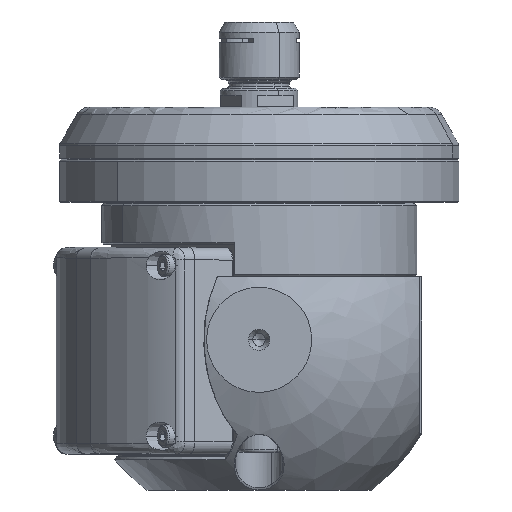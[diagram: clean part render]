
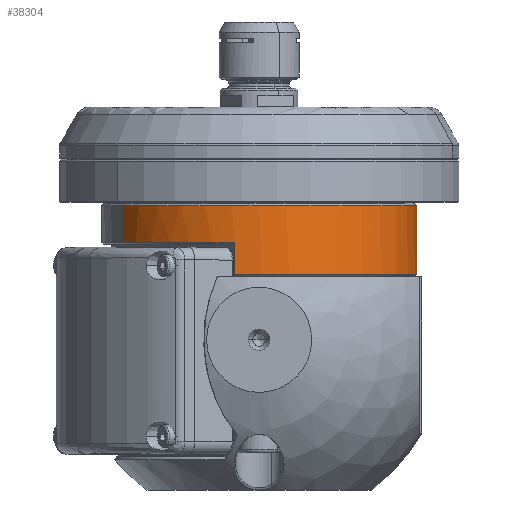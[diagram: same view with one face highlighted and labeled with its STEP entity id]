
A CAD part, front view. The second image highlights one B-rep face of the part: STEP entity #38304.
In plain terms, the highlighted cylindrical face has radius 31.5 mm (diameter 63 mm), a partial arc.
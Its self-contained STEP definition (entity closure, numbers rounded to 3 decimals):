
#252 = EDGE_CURVE ( 'NONE', #9271, #3193, #14596, .T. ) ;
#821 = ORIENTED_EDGE ( 'NONE', *, *, #252, .T. ) ;
#985 = AXIS2_PLACEMENT_3D ( 'NONE', #13474, #10291, #6226 ) ;
#1735 = DIRECTION ( 'NONE',  ( 0., 0., 1. ) ) ;
#2817 = FACE_OUTER_BOUND ( 'NONE', #33086, .T. ) ;
#3017 = CARTESIAN_POINT ( 'NONE',  ( -4.898, 6.383, 13.1 ) ) ;
#3193 = VERTEX_POINT ( 'NONE', #20074 ) ;
#6226 = DIRECTION ( 'NONE',  ( -0.866, -0.5, 0. ) ) ;
#6550 = VERTEX_POINT ( 'NONE', #36991 ) ;
#7236 = CARTESIAN_POINT ( 'NONE',  ( 0., 37.5, 19.4 ) ) ;
#8687 = LINE ( 'NONE', #27067, #11264 ) ;
#9271 = VERTEX_POINT ( 'NONE', #3017 ) ;
#9303 = EDGE_CURVE ( 'NONE', #3193, #40700, #21618, .T. ) ;
#9583 = EDGE_CURVE ( 'NONE', #40700, #12797, #32904, .T. ) ;
#9779 = EDGE_CURVE ( 'NONE', #25232, #9271, #8687, .T. ) ;
#10291 = DIRECTION ( 'NONE',  ( 0., 0., 1. ) ) ;
#10664 = ORIENTED_EDGE ( 'NONE', *, *, #9779, .T. ) ;
#10865 = CARTESIAN_POINT ( 'NONE',  ( 0., 37.5, 13.1 ) ) ;
#11062 = EDGE_CURVE ( 'NONE', #6550, #12797, #37746, .T. ) ;
#11264 = VECTOR ( 'NONE', #46153, 1000. ) ;
#12797 = VERTEX_POINT ( 'NONE', #18630 ) ;
#13474 = CARTESIAN_POINT ( 'NONE',  ( 0., 37.5, 27.3 ) ) ;
#14356 = VECTOR ( 'NONE', #21859, 1000. ) ;
#14596 = CIRCLE ( 'NONE', #25387, 31.5 ) ;
#15234 = DIRECTION ( 'NONE',  ( 0., 0., 1. ) ) ;
#16178 = EDGE_CURVE ( 'NONE', #6550, #25232, #43248, .T. ) ;
#18630 = CARTESIAN_POINT ( 'NONE',  ( -27.28, 21.75, 26.8 ) ) ;
#18821 = DIRECTION ( 'NONE',  ( 0.866, 0.5, 0. ) ) ;
#20074 = CARTESIAN_POINT ( 'NONE',  ( 27.28, 53.25, 13.1 ) ) ;
#20817 = ORIENTED_EDGE ( 'NONE', *, *, #16178, .T. ) ;
#21618 = LINE ( 'NONE', #39974, #14356 ) ;
#21859 = DIRECTION ( 'NONE',  ( 0., 0., 1. ) ) ;
#24721 = CARTESIAN_POINT ( 'NONE',  ( 0., 37.5, 26.8 ) ) ;
#25232 = VERTEX_POINT ( 'NONE', #29101 ) ;
#25387 = AXIS2_PLACEMENT_3D ( 'NONE', #10865, #15234, #25631 ) ;
#25631 = DIRECTION ( 'NONE',  ( -0.866, -0.5, 0. ) ) ;
#25823 = CARTESIAN_POINT ( 'NONE',  ( 27.28, 53.25, 26.8 ) ) ;
#27038 = ORIENTED_EDGE ( 'NONE', *, *, #9303, .T. ) ;
#27067 = CARTESIAN_POINT ( 'NONE',  ( -4.898, 6.383, 19.1 ) ) ;
#29101 = CARTESIAN_POINT ( 'NONE',  ( -4.898, 6.383, 19.4 ) ) ;
#29838 = AXIS2_PLACEMENT_3D ( 'NONE', #24721, #39452, #36719 ) ;
#30742 = ORIENTED_EDGE ( 'NONE', *, *, #11062, .F. ) ;
#32013 = VECTOR ( 'NONE', #1735, 1000. ) ;
#32904 = CIRCLE ( 'NONE', #29838, 31.5 ) ;
#33086 = EDGE_LOOP ( 'NONE', ( #821, #27038, #37018, #30742, #20817, #10664 ) ) ;
#34398 = CARTESIAN_POINT ( 'NONE',  ( -27.28, 21.75, 27.3 ) ) ;
#36719 = DIRECTION ( 'NONE',  ( 0.866, 0.5, 0. ) ) ;
#36991 = CARTESIAN_POINT ( 'NONE',  ( -27.28, 21.75, 19.4 ) ) ;
#37018 = ORIENTED_EDGE ( 'NONE', *, *, #9583, .T. ) ;
#37746 = LINE ( 'NONE', #34398, #32013 ) ;
#38304 = ADVANCED_FACE ( 'NONE', ( #2817 ), #39303, .T. ) ;
#39303 = CYLINDRICAL_SURFACE ( 'NONE', #985, 31.5 ) ;
#39452 = DIRECTION ( 'NONE',  ( 0., 0., -1. ) ) ;
#39974 = CARTESIAN_POINT ( 'NONE',  ( 27.28, 53.25, 27.3 ) ) ;
#40700 = VERTEX_POINT ( 'NONE', #25823 ) ;
#40941 = AXIS2_PLACEMENT_3D ( 'NONE', #7236, #44195, #18821 ) ;
#43248 = CIRCLE ( 'NONE', #40941, 31.5 ) ;
#44195 = DIRECTION ( 'NONE',  ( 0., 0., 1. ) ) ;
#46153 = DIRECTION ( 'NONE',  ( 0., 0., -1. ) ) ;
